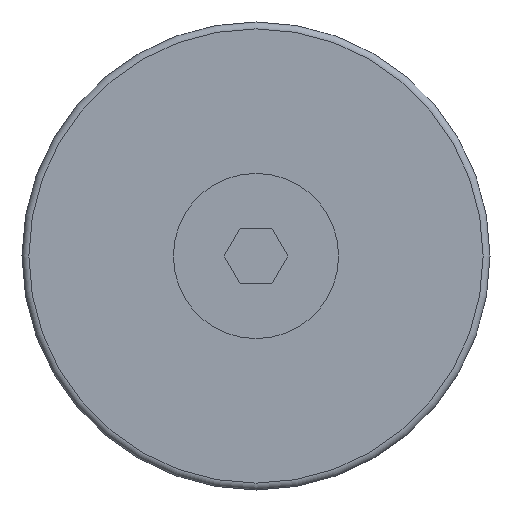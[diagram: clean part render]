
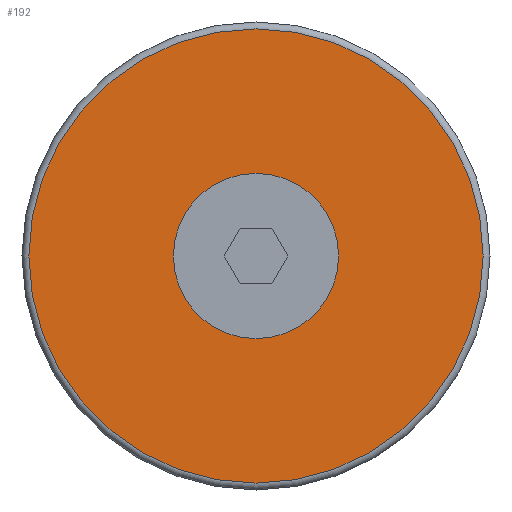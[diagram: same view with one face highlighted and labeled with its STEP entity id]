
A CAD part, front view. The second image highlights one B-rep face of the part: STEP entity #192.
In plain terms, the highlighted planar face has unit normal (0, -1, 0).
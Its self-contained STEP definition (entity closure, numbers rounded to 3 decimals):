
#192=ADVANCED_FACE('',(#273,#274),#275,.F.);
#273=FACE_BOUND('',#397,.T.);
#274=FACE_OUTER_BOUND('',#398,.T.);
#275=PLANE('',#399);
#397=EDGE_LOOP('',(#619));
#398=EDGE_LOOP('',(#620));
#399=AXIS2_PLACEMENT_3D('',#621,#622,#623);
#619=ORIENTED_EDGE('',*,*,#862,.F.);
#620=ORIENTED_EDGE('',*,*,#863,.T.);
#621=CARTESIAN_POINT('',(-16.5,-20.5,0.));
#622=DIRECTION('',(0.0,1.0,0.0));
#623=DIRECTION('',(0.0,0.0,1.0));
#862=EDGE_CURVE('',#988,#988,#989,.T.);
#863=EDGE_CURVE('',#990,#990,#991,.T.);
#988=VERTEX_POINT('',#1186);
#989=CIRCLE('',#1187,6.0);
#990=VERTEX_POINT('',#1188);
#991=CIRCLE('',#1189,16.5);
#1186=CARTESIAN_POINT('',(0.0,-20.5,-6.0));
#1187=AXIS2_PLACEMENT_3D('',#1472,#1473,#1474);
#1188=CARTESIAN_POINT('',(0.0,-20.5,-16.5));
#1189=AXIS2_PLACEMENT_3D('',#1475,#1476,#1477);
#1472=CARTESIAN_POINT('',(0.0,-20.5,0.));
#1473=DIRECTION('',(0.0,-1.0,0.0));
#1474=DIRECTION('',(0.0,0.0,-1.0));
#1475=CARTESIAN_POINT('',(0.0,-20.5,0.));
#1476=DIRECTION('',(0.0,-1.0,0.0));
#1477=DIRECTION('',(0.0,0.0,-1.0));
